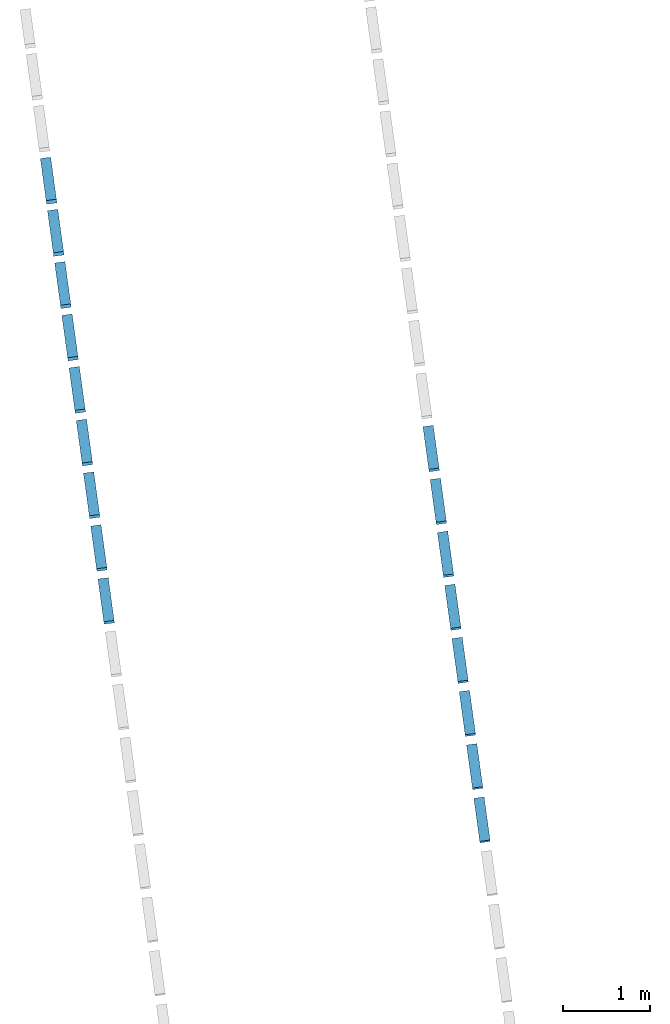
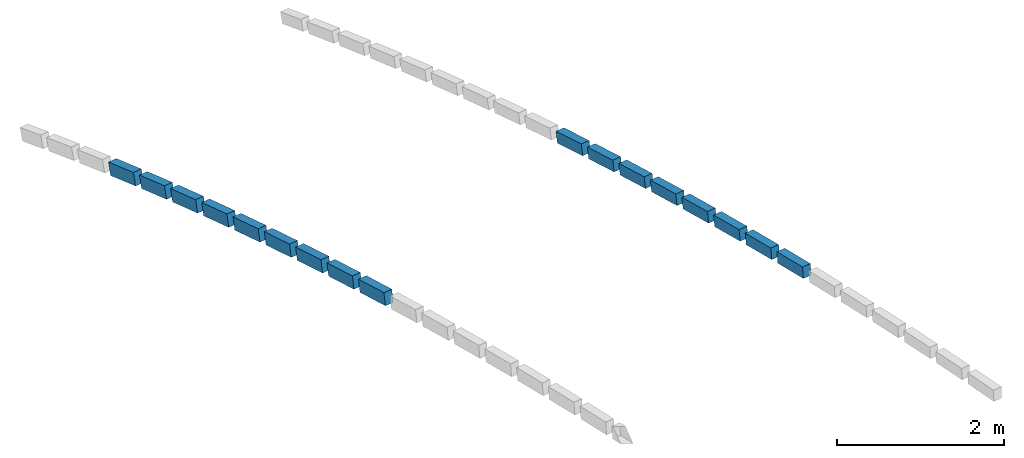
# One storey, part 2 of 6: 17 beams.
"""IFC2X3 building model written with IfcOpenShell, lengths in metres."""

from ifc_helpers import new_model, entity, si_unit, converted_unit, derived_unit, money_unit, direction, frame, frame_2d, origin_with_axes, place, context, subcontext, project, spatial, rectangle, extrude, boolean, faceted_brep, material, type_object, element, save


model = new_model("IFC2X3")

# Units and contexts
model_context = context("Model", 3, precision=1e-05, world=origin_with_axes(), true_north=direction((0.0, 1.0)))
body_context = subcontext(model_context, "Body", "Model", "MODEL_VIEW")
ifc_project = project(units=[si_unit("LENGTHUNIT", "METRE"), si_unit("AREAUNIT", "SQUARE_METRE"), si_unit("VOLUMEUNIT", "CUBIC_METRE"), converted_unit("PLANEANGLEUNIT", "DEGREE", entity("IfcPlaneAngleMeasure", 0.0174532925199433), si_unit("PLANEANGLEUNIT", "RADIAN"), dimensions=[0, 0, 0, 0, 0, 0, 0]), money_unit("EUR"), converted_unit("TIMEUNIT", "Year", entity("IfcTimeMeasure", 31557600.0), si_unit("TIMEUNIT", "SECOND"), dimensions=[0, 0, 1, 0, 0, 0, 0]), si_unit("MASSUNIT", "GRAM", prefix="KILO"), si_unit("THERMODYNAMICTEMPERATUREUNIT", "DEGREE_CELSIUS"), si_unit("LUMINOUSINTENSITYUNIT", "LUMEN"), si_unit("ENERGYUNIT", "JOULE", prefix="MEGA"), derived_unit("THERMALCONDUCTANCEUNIT", [(si_unit("POWERUNIT", "WATT"), 1), (si_unit("LENGTHUNIT", "METRE"), -1), (si_unit("THERMODYNAMICTEMPERATUREUNIT", "KELVIN"), -1)]), derived_unit("SPECIFICHEATCAPACITYUNIT", [(si_unit("ENERGYUNIT", "JOULE"), 1), (si_unit("MASSUNIT", "GRAM", prefix="KILO"), -1), (si_unit("THERMODYNAMICTEMPERATUREUNIT", "KELVIN"), -1)]), derived_unit("MASSDENSITYUNIT", [(si_unit("MASSUNIT", "GRAM", prefix="KILO"), 1), (si_unit("VOLUMEUNIT", "CUBIC_METRE"), -1)])], contexts=[model_context])

# Site, building, storey
site_placement = place(None, origin_with_axes())
site = spatial("IfcSite", under=ifc_project, at=site_placement, Name="Gelände", CompositionType="ELEMENT")
building_placement = place(site_placement, origin_with_axes())
building = spatial("IfcBuilding", under=site, at=building_placement, Name="Gebäude", CompositionType="ELEMENT")
storey_placement = place(building_placement, frame((0.0, 0.0, 9.9), z_axis=(0.0, 0.0, 1.0), x_axis=(1.0, 0.0, 0.0)))
storey = spatial("IfcBuildingStorey", under=building, at=storey_placement, Name="Dach", CompositionType="ELEMENT", Elevation=9.9)

# Beams
ifc_material = material(Name="Bauholz")
beam_type_1 = type_object("IfcBeamType", Name="Bauholz 120 x 160", PredefinedType="NOTDEFINED")
beam_1_placement = place(storey_placement, frame((89.74823323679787, -145.352584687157, 0.1494371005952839), z_axis=(0.0, 0.0, 1.0), x_axis=(-0.9907490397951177, -0.1357068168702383, 0.0)))
element("IfcBeam", 1, at=beam_1_placement, inside=storey, type_object=beam_type_1, material=ifc_material, Name="Unterzug-031", context=body_context, shape_type="CSG", body=[
    boolean("DIFFERENCE", boolean("DIFFERENCE", extrude(rectangle(XDim=0.16, YDim=0.12, at=frame_2d((-0.08, 0.0), x_axis=(1.0, 0.0))), frame((0.0, 0.0, 0.0), z_axis=(0.0, 0.9933728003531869, 0.1149368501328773), x_axis=(0.0, -0.1149368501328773, 0.9933728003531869)), (0.0, 0.0, 1.0), 0.5052231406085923), faceted_brep([(-0.06000000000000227, 0.0, 0.0), (-0.06000000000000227, 0.01882120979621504, -0.1588897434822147), (-0.06000000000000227, 0.01838989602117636, -0.1589396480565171), (0.06000000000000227, 0.01882120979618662, -0.1588897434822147), (0.05999999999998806, 0.0, 0.0), (0.06000000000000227, 0.01838989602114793, -0.1589396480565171)], [[[0, 1, 2]], [[3, 1, 0, 4]], [[1, 3, 5, 2]], [[4, 0, 2, 5]], [[3, 4, 5]]])), faceted_brep([(0.06000000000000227, 0.5201312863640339, -0.100886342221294), (-0.06000000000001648, 0.5201312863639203, -0.100886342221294), (-0.06000000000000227, 0.5202648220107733, -0.1008708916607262), (0.06000000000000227, 0.5202648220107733, -0.1008708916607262), (-0.06000000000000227, 0.5018749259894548, 0.05806875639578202), (0.06000000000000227, 0.5018749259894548, 0.05806875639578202)], [[[0, 1, 2, 3]], [[4, 1, 0, 5]], [[1, 4, 2]], [[4, 5, 3, 2]], [[5, 0, 3]]])),
])
beam_2_placement = place(storey_placement, frame((89.66403416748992, -144.7378962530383, 0.07202363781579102), z_axis=(0.0, 0.0, 1.0), x_axis=(-0.990749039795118, -0.1357068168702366, 0.0)))
element("IfcBeam", 2, at=beam_2_placement, inside=storey, type_object=beam_type_1, material=ifc_material, Name="Unterzug-031", context=body_context, shape_type="CSG", body=[
    boolean("DIFFERENCE", boolean("DIFFERENCE", extrude(rectangle(XDim=0.16, YDim=0.12, at=frame_2d((-0.08, 0.0), x_axis=(1.0, 0.0))), frame((0.0, 0.0, 0.0), z_axis=(0.0, 0.9921754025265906, 0.1248517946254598), x_axis=(0.0, -0.1248517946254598, 0.9921754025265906)), (0.0, 0.0, 1.0), 0.5052407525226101), faceted_brep([(-0.06000000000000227, 0.0, 0.0), (-0.06000000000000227, 0.02040708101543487, -0.1586938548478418), (-0.06000000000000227, 0.01997628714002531, -0.1587480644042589), (0.06000000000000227, 0.02040708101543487, -0.1586938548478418), (0.06000000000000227, 0.0, 0.0), (0.06000000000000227, 0.01997628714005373, -0.1587480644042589)], [[[0, 1, 2]], [[3, 1, 0, 4]], [[1, 3, 5, 2]], [[4, 0, 2, 5]], [[3, 4, 5]]])), faceted_brep([(0.06000000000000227, 0.5211303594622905, -0.09568463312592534), (-0.06000000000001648, 0.5211303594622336, -0.09568463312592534), (-0.06000000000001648, 0.5212637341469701, -0.09566784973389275), (0.05999999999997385, 0.521263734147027, -0.09566784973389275), (-0.06000000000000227, 0.5012874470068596, 0.06308021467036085), (0.06000000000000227, 0.5012874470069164, 0.06308021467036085)], [[[0, 1, 2, 3]], [[4, 1, 0, 5]], [[1, 4, 2]], [[4, 5, 3, 2]], [[5, 0, 3]]])),
])
beam_3_placement = place(storey_placement, frame((89.57994192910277, -144.1239877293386, -0.0115920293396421), z_axis=(0.0, 0.0, 1.0), x_axis=(-0.9907490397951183, -0.1357068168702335, 0.0)))
element("IfcBeam", 3, at=beam_3_placement, inside=storey, type_object=beam_type_1, material=ifc_material, Name="Unterzug-031", context=body_context, shape_type="CSG", body=[
    boolean("DIFFERENCE", boolean("DIFFERENCE", extrude(rectangle(XDim=0.16, YDim=0.12, at=frame_2d((-0.08, 0.0), x_axis=(1.0, 0.0))), frame((0.0, 0.0, 0.0), z_axis=(0.0, 0.990892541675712, 0.1346550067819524), x_axis=(0.0, -0.1346550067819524, 0.990892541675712)), (0.0, 0.0, 1.0), 0.5052585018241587), faceted_brep([(-0.06000000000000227, 0.0, 0.0), (-0.05999999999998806, 0.02197503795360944, -0.1584843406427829), (-0.06000000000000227, 0.02154480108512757, -0.1585428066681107), (0.06000000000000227, 0.02197503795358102, -0.1584843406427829), (0.05999999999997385, 0.0, 0.0), (0.06000000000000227, 0.02154480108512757, -0.1585428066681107)], [[[0, 1, 2]], [[3, 1, 0, 4]], [[1, 3, 5, 2]], [[4, 0, 2, 5]], [[3, 4, 5]]])), faceted_brep([(0.05999999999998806, 0.5220684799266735, -0.09052532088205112), (-0.06000000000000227, 0.5220684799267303, -0.09052532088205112), (-0.06000000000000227, 0.5222016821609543, -0.0905072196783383), (0.06000000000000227, 0.5222016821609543, -0.0905072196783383), (-0.05999999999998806, 0.5006568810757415, 0.06803558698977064), (0.05999999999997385, 0.5006568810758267, 0.06803558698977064)], [[[0, 1, 2, 3]], [[4, 1, 0, 5]], [[1, 4, 2]], [[4, 5, 3, 2]], [[5, 0, 3]]])),
])
beam_4_placement = place(storey_placement, frame((89.49597663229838, -143.5110059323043, -0.1016241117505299), z_axis=(0.0, 0.0, 1.0), x_axis=(-0.9907490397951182, -0.1357068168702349, 0.0)))
element("IfcBeam", 4, at=beam_4_placement, inside=storey, type_object=beam_type_1, material=ifc_material, Name="Unterzug-031", context=body_context, shape_type="CSG", body=[
    boolean("DIFFERENCE", boolean("DIFFERENCE", extrude(rectangle(XDim=0.16, YDim=0.12, at=frame_2d((-0.08, 0.0), x_axis=(1.0, 0.0))), frame((0.0, 0.0, 0.0), z_axis=(0.0, 0.9894162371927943, 0.1451051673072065), x_axis=(0.0, -0.1451051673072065, 0.9894162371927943)), (0.0, 0.0, 1.0), 0.5052237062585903), faceted_brep([(-0.06000000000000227, 0.0, 0.0), (-0.05999999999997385, 0.02364642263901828, -0.1582435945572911), (-0.06000000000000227, 0.02321682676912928, -0.1583065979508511), (0.0600000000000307, 0.02364642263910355, -0.1582435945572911), (0.05999999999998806, 0.0, 0.0), (0.05999999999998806, 0.02321682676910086, -0.1583065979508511)], [[[0, 1, 2]], [[3, 1, 0, 4]], [[1, 3, 5, 2]], [[4, 0, 2, 5]], [[3, 4, 5]]])), faceted_brep([(0.06000000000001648, 0.5229603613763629, -0.08501553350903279), (-0.06000000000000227, 0.5229603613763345, -0.08501553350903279), (-0.06000000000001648, 0.5230933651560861, -0.08499602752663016), (0.05999999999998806, 0.5230933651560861, -0.08499602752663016), (-0.06000000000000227, 0.4998765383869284, 0.07331057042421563), (0.06000000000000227, 0.4998765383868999, 0.07331057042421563)], [[[0, 1, 2, 3]], [[4, 1, 0, 5]], [[1, 4, 2]], [[4, 5, 3, 2]], [[5, 0, 3]]])),
])
beam_5_placement = place(storey_placement, frame((89.83253027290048, -145.9679883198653, 0.2206739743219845), z_axis=(0.0, 0.0, 1.0), x_axis=(-0.9907490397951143, -0.1357068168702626, 0.0)))
element("IfcBeam", 5, at=beam_5_placement, inside=storey, type_object=beam_type_1, material=ifc_material, Name="Unterzug-031", context=body_context, shape_type="CSG", body=[
    boolean("DIFFERENCE", boolean("DIFFERENCE", extrude(rectangle(XDim=0.16, YDim=0.12, at=frame_2d((-0.08, 0.0), x_axis=(1.0, 0.0))), frame((0.0, 0.0, 0.0), z_axis=(0.0, 0.994501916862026, 0.1047183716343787), x_axis=(0.0, -0.1047183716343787, 0.994501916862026)), (0.0, 0.0, 1.0), 0.5052516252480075), faceted_brep([(-0.06000000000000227, 0.0, 0.0), (-0.06000000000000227, 0.01718674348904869, -0.1590748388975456), (-0.05999999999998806, 0.01675493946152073, -0.1591203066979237), (0.05999999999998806, 0.01718674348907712, -0.1590748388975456), (0.06000000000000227, 0.0, 0.0), (0.06000000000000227, 0.01675493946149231, -0.1591203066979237)], [[[0, 1, 2]], [[3, 1, 0, 4]], [[1, 3, 5, 2]], [[4, 0, 2, 5]], [[3, 4, 5]]])), faceted_brep([(0.06000000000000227, 0.5190949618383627, -0.1062252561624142), (-0.05999999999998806, 0.5190949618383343, -0.1062252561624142), (-0.06000000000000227, 0.5192286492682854, -0.1062111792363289), (0.05999999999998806, 0.5192286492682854, -0.1062111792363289), (-0.06000000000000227, 0.5024737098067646, 0.05290912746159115), (0.06000000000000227, 0.5024737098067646, 0.05290912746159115)], [[[0, 1, 2, 3]], [[4, 1, 0, 5]], [[1, 4, 2]], [[4, 5, 3, 2]], [[5, 0, 3]]])),
])
beam_6_placement = place(storey_placement, frame((89.41213371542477, -142.8989175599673, -0.1977625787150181), z_axis=(0.0, 0.0, 1.0), x_axis=(-0.9907490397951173, -0.1357068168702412, 0.0)))
element("IfcBeam", 6, at=beam_6_placement, inside=storey, type_object=beam_type_1, material=ifc_material, Name="Unterzug-031", context=body_context, shape_type="CSG", body=[
    boolean("DIFFERENCE", boolean("DIFFERENCE", extrude(rectangle(XDim=0.16, YDim=0.12, at=frame_2d((-0.08, 0.0), x_axis=(1.0, 0.0))), frame((0.0, 0.0, 0.0), z_axis=(0.0, 0.9879144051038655, 0.1550004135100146), x_axis=(0.0, -0.1550004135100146, 0.9879144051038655)), (0.0, 0.0, 1.0), 0.5052415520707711), faceted_brep([(-0.05999999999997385, 0.0, 0.0), (-0.05999999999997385, 0.02522900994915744, -0.1579990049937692), (-0.06000000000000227, 0.02480006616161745, -0.1580663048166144), (0.0600000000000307, 0.02522900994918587, -0.1579990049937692), (0.06000000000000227, 0.0, 0.0), (0.06000000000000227, 0.02480006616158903, -0.1580663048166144)], [[[0, 1, 2]], [[3, 1, 0, 4]], [[1, 3, 5, 2]], [[4, 0, 2, 5]], [[3, 4, 5]]])), faceted_brep([(0.06000000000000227, 0.5238026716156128, -0.0797744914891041), (-0.05999999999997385, 0.5238026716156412, -0.0797744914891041), (-0.05999999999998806, 0.5239354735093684, -0.07975365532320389), (0.06000000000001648, 0.5239354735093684, -0.07975365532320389), (-0.05999999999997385, 0.499135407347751, 0.07831264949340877), (0.06000000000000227, 0.4991354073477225, 0.07831264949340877)], [[[0, 1, 2, 3]], [[4, 1, 0, 5]], [[1, 4, 2]], [[4, 5, 3, 2]], [[5, 0, 3]]])),
])
beam_7_placement = place(storey_placement, frame((89.32842812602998, -142.2878317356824, -0.30022244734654), z_axis=(0.0, 0.0, 1.0), x_axis=(-0.9907490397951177, -0.1357068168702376, 0.0)))
element("IfcBeam", 7, at=beam_7_placement, inside=storey, type_object=beam_type_1, material=ifc_material, Name="Unterzug-031", context=body_context, shape_type="CSG", body=[
    boolean("DIFFERENCE", boolean("DIFFERENCE", extrude(rectangle(XDim=0.16, YDim=0.12, at=frame_2d((-0.08, 0.0), x_axis=(1.0, 0.0))), frame((0.0, 0.0, 0.0), z_axis=(0.0, 0.9863033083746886, 0.1649417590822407), x_axis=(0.0, -0.1649417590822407, 0.9863033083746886)), (0.0, 0.0, 1.0), 0.5052459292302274), faceted_brep([(-0.06000000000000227, 0.0, 0.0), (-0.05999999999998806, 0.02681892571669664, -0.1577369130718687), (-0.05999999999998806, 0.02639068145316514, -0.1578085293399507), (0.06000000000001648, 0.02681892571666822, -0.1577369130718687), (0.06000000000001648, 0.0, 0.0), (0.06000000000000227, 0.02639068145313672, -0.1578085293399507)], [[[0, 1, 2]], [[3, 1, 0, 4]], [[1, 3, 5, 2]], [[4, 0, 2, 5]], [[3, 4, 5]]])), faceted_brep([(0.06000000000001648, 0.5245838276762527, -0.07449454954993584), (-0.06000000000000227, 0.5245838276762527, -0.07449454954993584), (-0.05999999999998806, 0.5247164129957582, -0.07447237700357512), (0.06000000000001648, 0.5247164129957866, -0.07447237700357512), (-0.06000000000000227, 0.4983257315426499, 0.08333615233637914), (0.06000000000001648, 0.4983257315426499, 0.08333615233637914)], [[[0, 1, 2, 3]], [[4, 1, 0, 5]], [[1, 4, 2]], [[4, 5, 3, 2]], [[5, 0, 3]]])),
])
beam_8_placement = place(storey_placement, frame((89.24486982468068, -141.6778211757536, -0.4089660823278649), z_axis=(0.0, 0.0, 1.0), x_axis=(-0.9907490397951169, -0.1357068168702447, 0.0)))
element("IfcBeam", 8, at=beam_8_placement, inside=storey, type_object=beam_type_1, material=ifc_material, Name="Unterzug-031", context=body_context, shape_type="CSG", body=[
    boolean("DIFFERENCE", boolean("DIFFERENCE", extrude(rectangle(XDim=0.16, YDim=0.12, at=frame_2d((-0.08, 0.0), x_axis=(1.0, 0.0))), frame((0.0, 0.0, 0.0), z_axis=(0.0, 0.9845708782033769, 0.1749862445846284), x_axis=(0.0, -0.1749862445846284, 0.9845708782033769)), (0.0, 0.0, 1.0), 0.5052375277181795), faceted_brep([(-0.06000000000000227, 0.0, 0.0), (-0.06000000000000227, 0.02849469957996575, -0.1574430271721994), (-0.05999999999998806, 0.0279977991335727, -0.1575313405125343), (0.05999999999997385, 0.02849469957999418, -0.1574430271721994), (0.05999999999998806, 0.0, 0.0), (0.06000000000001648, 0.0279977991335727, -0.1575313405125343)], [[[0, 1, 2]], [[3, 1, 0, 4]], [[1, 3, 5, 2]], [[4, 0, 2, 5]], [[3, 4, 5]]])), faceted_brep([(0.06000000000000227, 0.5253076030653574, -0.06914524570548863), (-0.05999999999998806, 0.5253076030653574, -0.06914524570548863), (-0.05999999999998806, 0.5254399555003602, -0.06912172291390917), (0.06000000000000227, 0.5254399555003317, -0.06912172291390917), (-0.05999999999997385, 0.4974421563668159, 0.08840961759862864), (0.05999999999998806, 0.4974421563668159, 0.08840961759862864)], [[[0, 1, 2, 3]], [[4, 1, 0, 5]], [[1, 4, 2]], [[4, 5, 3, 2]], [[5, 0, 3]]])),
])
beam_type_2 = type_object("IfcBeamType", Name="Bauholz 120 x 180", PredefinedType="NOTDEFINED")
beam_9_placement = place(storey_placement, frame((85.35337129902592, -142.8631117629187, -0.4776194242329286), z_axis=(0.0, 0.0, 1.0), x_axis=(-0.9907490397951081, -0.1357068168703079, 0.0)))
element("IfcBeam", 9, at=beam_9_placement, inside=storey, type_object=beam_type_2, material=ifc_material, Name="Unterzug-031", context=body_context, shape_type="CSG", body=[
    boolean("DIFFERENCE", boolean("DIFFERENCE", extrude(rectangle(XDim=0.18, YDim=0.12, at=frame_2d((0.09, -0.06), x_axis=(1.0, 0.0))), frame((0.0, -0.0006394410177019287, -0.0001069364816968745), z_axis=(0.0, 0.9863029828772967, 0.164943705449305), x_axis=(0.0, -0.164943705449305, 0.9863029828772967)), (0.0, 0.0, 1.0), 0.5047020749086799), faceted_brep([(-0.1200000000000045, -0.03030958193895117, 0.1774308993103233), (-0.1200000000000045, 0.0, 0.0), (-0.1200000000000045, -0.0006394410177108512, -0.0001069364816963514), (-0.1200000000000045, -0.03032930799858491, 0.1774276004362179), (0.0, 0.0, 0.0), (0.0, -0.03030958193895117, 0.1774308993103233), (0.0, -0.0006394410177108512, -0.0001069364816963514), (0.0, -0.03032930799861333, 0.1774276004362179)], [[[0, 1, 2, 3]], [[4, 1, 0, 5]], [[1, 4, 6, 2]], [[2, 6, 7, 3]], [[5, 0, 3, 7]], [[4, 5, 7, 6]]])), faceted_brep([(0.0, 0.4965102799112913, 0.08303355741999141), (-0.1199999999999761, 0.4965102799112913, 0.08303355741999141), (-0.1200000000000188, 0.497149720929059, 0.08314049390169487), (0.0, 0.4971497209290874, 0.08314049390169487), (-0.1199999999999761, 0.4674401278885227, 0.2606717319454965), (0.0, 0.4674401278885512, 0.2606717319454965), (-0.1200000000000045, 0.4674598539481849, 0.2606750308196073), (0.0, 0.4674598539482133, 0.2606750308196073)], [[[0, 1, 2, 3]], [[4, 1, 0, 5]], [[1, 4, 6, 2]], [[7, 3, 2, 6]], [[5, 0, 3, 7]], [[4, 5, 7, 6]]])),
])
beam_10_placement = place(storey_placement, frame((85.2700675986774, -142.2549598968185, -0.5860302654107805), z_axis=(0.0, 0.0, 1.0), x_axis=(-0.9907490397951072, -0.1357068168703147, 0.0)))
element("IfcBeam", 10, at=beam_10_placement, inside=storey, type_object=beam_type_2, material=ifc_material, Name="Unterzug-031", context=body_context, shape_type="CSG", body=[
    boolean("DIFFERENCE", boolean("DIFFERENCE", extrude(rectangle(XDim=0.18, YDim=0.12, at=frame_2d((0.09, -0.06), x_axis=(1.0, 0.0))), frame((0.0, -0.0007929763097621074, -0.0001409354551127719), z_axis=(0.0, 0.9845706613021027, 0.1749874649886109), x_axis=(0.0, -0.1749874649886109, 0.9845706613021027)), (0.0, 0.0, 1.0), 0.5047859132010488), faceted_brep([(-0.1199999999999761, -0.0322710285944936, 0.1770852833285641), (-0.1200000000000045, 0.0, 0.0), (-0.1199999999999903, -0.0007929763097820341, -0.0001409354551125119), (-0.1200000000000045, -0.03229072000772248, 0.1770817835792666), (0.0, 0.0, 0.0), (0.0, -0.03227102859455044, 0.1770852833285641), (0.0, -0.0007929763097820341, -0.0001409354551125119), (0.0, -0.03229072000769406, 0.1770817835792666)], [[[0, 1, 2, 3]], [[4, 1, 0, 5]], [[1, 4, 6, 2]], [[2, 6, 7, 3]], [[5, 0, 3, 7]], [[4, 5, 7, 6]]])), faceted_brep([(0.0, 0.4955661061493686, 0.08807682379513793), (-0.1200000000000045, 0.4955661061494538, 0.08807682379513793), (-0.1200000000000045, 0.4962044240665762, 0.08819027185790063), (0.0, 0.4962044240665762, 0.08819027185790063), (-0.1200000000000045, 0.4646869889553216, 0.2654094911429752), (0.0, 0.4646869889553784, 0.2654094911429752), (-0.1200000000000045, 0.4647066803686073, 0.265412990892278), (0.0, 0.4647066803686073, 0.265412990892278)], [[[0, 1, 2, 3]], [[4, 1, 0, 5]], [[1, 4, 6, 2]], [[7, 3, 2, 6]], [[5, 0, 3, 7]], [[4, 5, 7, 6]]])),
])
beam_11_placement = place(storey_placement, frame((85.18691667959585, -141.6479233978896, -0.700651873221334), z_axis=(0.0, 0.0, 1.0), x_axis=(-0.9907490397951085, -0.1357068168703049, 0.0)))
element("IfcBeam", 11, at=beam_11_placement, inside=storey, type_object=beam_type_2, material=ifc_material, Name="Unterzug-031", context=body_context, shape_type="CSG", body=[
    boolean("DIFFERENCE", boolean("DIFFERENCE", extrude(rectangle(XDim=0.18, YDim=0.12, at=frame_2d((0.09, -0.06), x_axis=(1.0, 0.0))), frame((0.0, -0.0007915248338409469, -0.0001488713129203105), z_axis=(0.0, 0.9827684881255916, 0.1848407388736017), x_axis=(0.0, -0.1848407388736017, 0.9827684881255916)), (0.0, 0.0, 1.0), 0.5047891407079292), faceted_brep([(-0.1199999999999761, -0.0340432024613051, 0.1767531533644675), (-0.1200000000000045, 0.0, 0.0), (-0.1200000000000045, -0.000791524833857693, -0.0001488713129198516), (-0.1199999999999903, -0.03406285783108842, 0.1767494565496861), (0.0, 0.0, 0.0), (0.0, -0.0340432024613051, 0.1767531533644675), (0.0, -0.000791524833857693, -0.0001488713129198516), (0.0, -0.03406285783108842, 0.1767494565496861)], [[[0, 1, 2, 3]], [[4, 1, 0, 5]], [[1, 4, 6, 2]], [[2, 6, 7, 3]], [[5, 0, 3, 7]], [[4, 5, 7, 6]]])), faceted_brep([(0.0, 0.4946621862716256, 0.09303689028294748), (-0.1199999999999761, 0.494662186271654, 0.09303689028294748), (-0.1200000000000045, 0.4952993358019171, 0.09315672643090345), (0.0, 0.4952993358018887, 0.09315672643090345), (-0.1199999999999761, 0.4620083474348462, 0.270051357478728), (0.0, 0.4620083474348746, 0.270051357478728), (-0.1200000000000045, 0.4620280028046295, 0.2700550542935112), (0.0, 0.4620280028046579, 0.2700550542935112)], [[[0, 1, 2, 3]], [[4, 1, 0, 5]], [[1, 4, 6, 2]], [[7, 3, 2, 6]], [[5, 0, 3, 7]], [[4, 5, 7, 6]]])),
])
beam_12_placement = place(storey_placement, frame((85.43683051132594, -143.4723989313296, -0.375462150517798), z_axis=(0.0, 0.0, 1.0), x_axis=(-0.9907490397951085, -0.135706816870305, 0.0)))
element("IfcBeam", 12, at=beam_12_placement, inside=storey, type_object=beam_type_2, material=ifc_material, Name="Unterzug-031", context=body_context, shape_type="CSG", body=[
    boolean("DIFFERENCE", boolean("DIFFERENCE", extrude(rectangle(XDim=0.18, YDim=0.12, at=frame_2d((0.09, -0.06), x_axis=(1.0, 0.0))), frame((0.0, -0.0006404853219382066, -0.0001004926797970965), z_axis=(0.0, 0.9879137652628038, 0.1550044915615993), x_axis=(0.0, -0.1550044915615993, 0.9879137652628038)), (0.0, 0.0, 1.0), 0.5050391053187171), faceted_brep([(-0.1199999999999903, -0.02852153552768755, 0.1777270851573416), (-0.1200000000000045, 0.0, 0.0), (-0.1200000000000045, -0.0006404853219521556, -0.0001004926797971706), (-0.1200000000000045, -0.02854129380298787, 0.177723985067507), (0.0, 0.0, 0.0), (0.0, -0.02852153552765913, 0.1777270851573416), (0.0, -0.0006404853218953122, -0.0001004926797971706), (0.0, -0.02854129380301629, 0.177723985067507)], [[[0, 1, 2, 3]], [[4, 1, 0, 5]], [[1, 4, 6, 2]], [[2, 6, 7, 3]], [[5, 0, 3, 7]], [[4, 5, 7, 6]]])), faceted_brep([(0.0, 0.4971885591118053, 0.07800929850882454), (-0.1200000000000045, 0.4971885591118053, 0.07800929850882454), (-0.1199999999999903, 0.4982945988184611, 0.07818283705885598), (0.0, 0.4982945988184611, 0.07818283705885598), (-0.1200000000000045, 0.4703740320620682, 0.2560042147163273), (0.0, 0.470374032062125, 0.2560042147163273), (-0.1200000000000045, 0.4703937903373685, 0.2560073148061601), (0.0, 0.4703937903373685, 0.2560073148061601)], [[[0, 1, 2, 3]], [[4, 1, 0, 5]], [[1, 4, 6, 2]], [[7, 3, 2, 6]], [[5, 0, 3, 7]], [[4, 5, 7, 6]]])),
])
beam_13_placement = place(storey_placement, frame((85.10392360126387, -141.0420392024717, -0.8213280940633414), z_axis=(0.0, 0.0, 1.0), x_axis=(-0.9907490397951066, -0.1357068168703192, 0.0)))
element("IfcBeam", 13, at=beam_13_placement, inside=storey, type_object=beam_type_2, material=ifc_material, Name="Unterzug-031", context=body_context, shape_type="CSG", body=[
    boolean("DIFFERENCE", boolean("DIFFERENCE", extrude(rectangle(XDim=0.18, YDim=0.12, at=frame_2d((0.09, -0.06), x_axis=(1.0, 0.0))), frame((0.0, -0.0007900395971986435, -0.0001565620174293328), z_axis=(0.0, 0.9809243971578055, 0.1943896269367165), x_axis=(0.0, -0.1943896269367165, 0.9809243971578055)), (0.0, 0.0, 1.0), 0.5047893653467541), faceted_brep([(-0.1199999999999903, -0.03576055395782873, 0.1764137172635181), (-0.1200000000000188, 0.0, 0.0), (-0.1200000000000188, -0.000790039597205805, -0.0001565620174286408), (-0.1200000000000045, -0.03578017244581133, 0.1764098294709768), (0.0, 0.0, 0.0), (0.0, -0.03576055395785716, 0.1764137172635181), (0.0, -0.0007900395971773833, -0.0001565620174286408), (0.0, -0.03578017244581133, 0.1764098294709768)], [[[0, 1, 2, 3]], [[4, 1, 0, 5]], [[1, 4, 6, 2]], [[2, 6, 7, 3]], [[5, 0, 3, 7]], [[4, 5, 7, 6]]])), faceted_brep([(0.0, 0.4937342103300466, 0.09784322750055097), (-0.1199999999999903, 0.4937342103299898, 0.09784322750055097), (-0.1200000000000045, 0.4943701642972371, 0.09796925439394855), (0.0, 0.4943701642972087, 0.09796925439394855), (-0.1200000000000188, 0.4593604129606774, 0.2745317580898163), (0.0, 0.459360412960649, 0.2745317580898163), (-0.1200000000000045, 0.4593800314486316, 0.274535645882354), (0.0, 0.4593800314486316, 0.274535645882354)], [[[0, 1, 2, 3]], [[4, 1, 0, 5]], [[1, 4, 6, 2]], [[7, 3, 2, 6]], [[5, 0, 3, 7]], [[4, 5, 7, 6]]])),
])
beam_14_placement = place(storey_placement, frame((84.85600999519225, -139.2321661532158, -1.220793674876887), z_axis=(0.0, 0.0, 1.0), x_axis=(-0.9907490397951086, -0.1357068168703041, 0.0)))
element("IfcBeam", 14, at=beam_14_placement, inside=storey, type_object=beam_type_2, material=ifc_material, Name="Unterzug-031", context=body_context, shape_type="CSG", body=[
    boolean("DIFFERENCE", boolean("DIFFERENCE", extrude(rectangle(XDim=0.18, YDim=0.12, at=frame_2d((0.09, -0.06), x_axis=(1.0, 0.0))), frame((0.0, -0.00078494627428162, -0.0001803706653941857), z_axis=(0.0, 0.9746004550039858, 0.223950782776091), x_axis=(0.0, -0.223950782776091, 0.9746004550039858)), (0.0, 0.0, 1.0), 0.5044738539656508), faceted_brep([(-0.1200000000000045, -0.04107659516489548, 0.1752521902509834), (-0.120000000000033, 0.0, 0.0), (-0.1200000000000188, -0.0007849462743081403, -0.0001803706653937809), (-0.1200000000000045, -0.04109608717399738, 0.1752477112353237), (0.0, 0.0, 0.0), (0.0, -0.04107659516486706, 0.1752521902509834), (0.0, -0.0007849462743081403, -0.0001803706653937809), (0.0, -0.0410960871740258, 0.1752477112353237)], [[[0, 1, 2, 3]], [[4, 1, 0, 5]], [[1, 4, 6, 2]], [[2, 6, 7, 3]], [[5, 0, 3, 7]], [[4, 5, 7, 6]]])), faceted_brep([(0.0, 0.4905498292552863, 0.1127221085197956), (-0.120000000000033, 0.4905498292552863, 0.1127221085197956), (-0.1200000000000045, 0.4908755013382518, 0.1127969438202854), (0.0, 0.4908755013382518, 0.1127969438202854), (-0.1200000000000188, 0.4505448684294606, 0.2882205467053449), (0.0, 0.4505448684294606, 0.2882205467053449), (-0.1200000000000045, 0.4505643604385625, 0.2882250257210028), (0.0, 0.4505643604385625, 0.2882250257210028)], [[[0, 1, 2, 3]], [[4, 1, 0, 5]], [[1, 4, 6, 2]], [[7, 3, 2, 6]], [[5, 0, 3, 7]], [[4, 5, 7, 6]]])),
])
beam_15_placement = place(storey_placement, frame((84.77375099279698, -138.631641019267, -1.366219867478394), z_axis=(0.0, 0.0, 1.0), x_axis=(-0.9907490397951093, -0.135706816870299, 0.0)))
element("IfcBeam", 15, at=beam_15_placement, inside=storey, type_object=beam_type_2, material=ifc_material, Name="Unterzug-031", context=body_context, shape_type="CSG", body=[
    boolean("DIFFERENCE", boolean("DIFFERENCE", extrude(rectangle(XDim=0.18, YDim=0.12, at=frame_2d((0.09, -0.06), x_axis=(1.0, 0.0))), frame((0.0, -0.0007831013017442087, -0.0001882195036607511), z_axis=(0.0, 0.9723097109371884, 0.2336960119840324), x_axis=(0.0, -0.2336960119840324, 0.9723097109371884)), (0.0, 0.0, 1.0), 0.5044741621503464), faceted_brep([(-0.1200000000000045, -0.04282893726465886, 0.1748322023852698), (-0.1200000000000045, 0.0, 0.0), (-0.1200000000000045, -0.0007831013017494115, -0.0001882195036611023), (-0.1200000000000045, -0.04284838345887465, 0.1748275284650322), (0.0, 0.0, 0.0), (0.0, -0.04282893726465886, 0.1748322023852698), (0.0, -0.0007831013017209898, -0.0001882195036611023), (0.0, -0.04284838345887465, 0.1748275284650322)], [[[0, 1, 2, 3]], [[4, 1, 0, 5]], [[1, 4, 6, 2]], [[2, 6, 7, 3]], [[5, 0, 3, 7]], [[4, 5, 7, 6]]])), faceted_brep([(0.0, 0.489397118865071, 0.1176272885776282), (-0.1200000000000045, 0.4893971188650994, 0.1176272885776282), (-0.1200000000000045, 0.4897220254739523, 0.1177053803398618), (0.0, 0.4897220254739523, 0.1177053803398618), (-0.120000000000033, 0.4476372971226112, 0.2927164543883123), (0.0, 0.4476372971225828, 0.2927164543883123), (-0.1200000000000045, 0.447656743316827, 0.2927211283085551), (0.0, 0.4476567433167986, 0.2927211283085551)], [[[0, 1, 2, 3]], [[4, 1, 0, 5]], [[1, 4, 6, 2]], [[7, 3, 2, 6]], [[5, 0, 3, 7]], [[4, 5, 7, 6]]])),
])
beam_16_placement = place(storey_placement, frame((84.93846447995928, -139.8341183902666, -1.081509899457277), z_axis=(0.0, 0.0, 1.0), x_axis=(-0.9907490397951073, -0.1357068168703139, 0.0)))
element("IfcBeam", 16, at=beam_16_placement, inside=storey, type_object=beam_type_2, material=ifc_material, Name="Unterzug-031", context=body_context, shape_type="CSG", body=[
    boolean("DIFFERENCE", boolean("DIFFERENCE", extrude(rectangle(XDim=0.18, YDim=0.12, at=frame_2d((0.09, -0.06), x_axis=(1.0, 0.0))), frame((0.0, -0.0007867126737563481, -0.0001725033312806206), z_axis=(0.0, 0.976793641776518, 0.2141825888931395), x_axis=(0.0, -0.2141825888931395, 0.976793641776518)), (0.0, 0.0, 1.0), 0.5044744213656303), faceted_brep([(-0.1200000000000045, -0.03932004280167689, 0.1756546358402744), (-0.1200000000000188, 0.0, 0.0), (-0.1200000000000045, -0.0007867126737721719, -0.0001725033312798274), (-0.1200000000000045, -0.03933957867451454, 0.1756503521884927), (0.0, 0.0, 0.0), (0.0, -0.03932004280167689, 0.1756546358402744), (0.0, -0.0007867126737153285, -0.0001725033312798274), (0.0, -0.03933957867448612, 0.1756503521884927)], [[[0, 1, 2, 3]], [[4, 1, 0, 5]], [[1, 4, 6, 2]], [[2, 6, 7, 3]], [[5, 0, 3, 7]], [[4, 5, 7, 6]]])), faceted_brep([(0.0, 0.4916542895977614, 0.1078055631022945), (-0.1200000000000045, 0.4916542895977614, 0.1078055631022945), (-0.1200000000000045, 0.4919806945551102, 0.1078771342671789), (0.0, 0.4919806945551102, 0.1078771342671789), (-0.1200000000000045, 0.4534082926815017, 0.2836957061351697), (0.0, 0.4534082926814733, 0.2836957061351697), (-0.1200000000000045, 0.4534278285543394, 0.2836999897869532), (0.0, 0.4534278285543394, 0.2836999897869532)], [[[0, 1, 2, 3]], [[4, 1, 0, 5]], [[1, 4, 6, 2]], [[7, 3, 2, 6]], [[5, 0, 3, 7]], [[4, 5, 7, 6]]])),
])
beam_17_placement = place(storey_placement, frame((85.02110611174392, -140.4374368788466, -0.9483826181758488), z_axis=(0.0, 0.0, 1.0), x_axis=(-0.9907490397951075, -0.135706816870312, 0.0)))
element("IfcBeam", 17, at=beam_17_placement, inside=storey, type_object=beam_type_2, material=ifc_material, Name="Unterzug-031", context=body_context, shape_type="CSG", body=[
    boolean("DIFFERENCE", boolean("DIFFERENCE", extrude(rectangle(XDim=0.18, YDim=0.12, at=frame_2d((0.09, -0.06), x_axis=(1.0, 0.0))), frame((0.0, -0.0007883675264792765, -0.0001647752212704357), z_axis=(0.0, 0.9788483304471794, 0.2045872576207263), x_axis=(0.0, -0.2045872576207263, 0.9788483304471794)), (0.0, 0.0, 1.0), 0.5047887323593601), faceted_brep([(-0.1200000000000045, -0.03759449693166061, 0.1760320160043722), (-0.1199999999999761, 0.0, 0.0), (-0.1199999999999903, -0.0007883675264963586, -0.0001647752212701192), (-0.1199999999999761, -0.03761407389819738, 0.1760279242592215), (0.0, 0.0, 0.0), (0.0, -0.03759449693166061, 0.1760320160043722), (0.0, -0.0007883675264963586, -0.0001647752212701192), (0.0, -0.03761407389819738, 0.1760279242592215)], [[[0, 1, 2, 3]], [[4, 1, 0, 5]], [[1, 4, 6, 2]], [[2, 6, 7, 3]], [[5, 0, 3, 7]], [[4, 5, 7, 6]]])), faceted_brep([(0.0, 0.492688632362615, 0.1029759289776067), (-0.1199999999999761, 0.492688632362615, 0.1029759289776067), (-0.1200000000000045, 0.4933232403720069, 0.1031085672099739), (0.0, 0.4933232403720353, 0.1031085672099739), (-0.1199999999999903, 0.4564779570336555, 0.2792971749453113), (0.0, 0.456477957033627, 0.2792971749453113), (-0.1199999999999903, 0.4564975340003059, 0.2793012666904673), (0.0, 0.4564975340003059, 0.2793012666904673)], [[[0, 1, 2, 3]], [[4, 1, 0, 5]], [[1, 4, 6, 2]], [[7, 3, 2, 6]], [[5, 0, 3, 7]], [[4, 5, 7, 6]]])),
])

save(model, "model.ifc")
